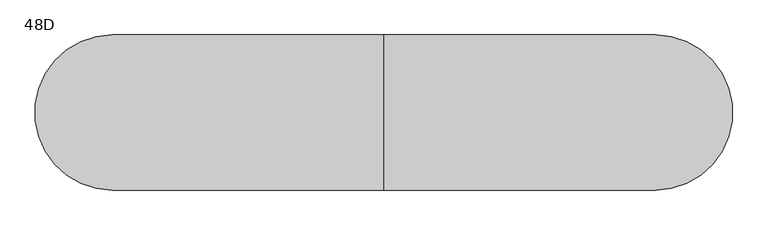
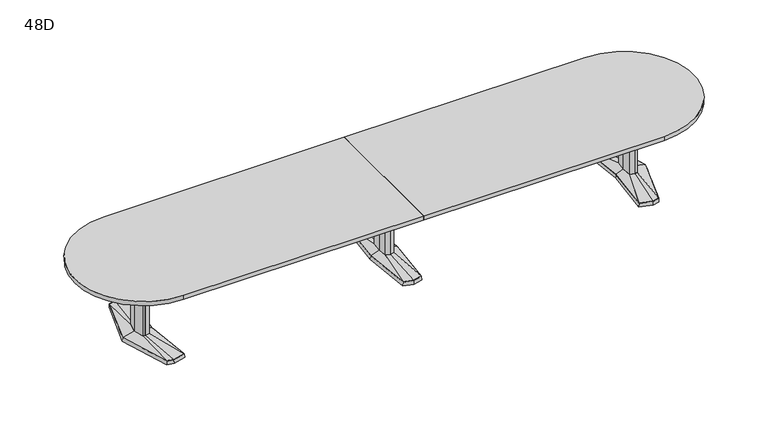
"""IFC4 building model written with IfcOpenShell, lengths in millimetres: furniture geometry, Coalesse_AM_Table_Conference_ETable2_Racetrack_18ft_AluminiumBase : 48D."""

from ifc_helpers import new_model, si_unit, point, frame, frame_2d, origin, place, context, project, spatial, polyline, circle_curve, trimmed, segment, composite_curve, outline, extrude, faceted_brep, source, transform, mapped, element, save
from ifc_brep_helpers import plane_surface, spline_surface, advanced_brep


def furniture_48d_277532bd(model_context):
    return source(origin(), model_context, "Body", "SolidModel", [
        faceted_brep([(-81.2333791, -433.8053819, 38.1), (0.0, -455.556576, 38.1), (81.2333791, -433.8053819, 38.1), (119.0564774, 0.0, 38.1), (81.2333791, 433.8053819, 38.1), (0.0, 455.556576, 38.1), (-81.2333791, 433.8053819, 38.1), (-119.0564774, 0.0, 38.1), (-82.7182795, -435.0512063, 3.175), (-120.65, 0.0, 3.175), (-82.7182795, 435.0512063, 3.175), (0.0, 457.2, 3.175), (82.7182795, 435.0512063, 3.175), (120.65, 0.0, 3.175), (82.7182795, -435.0512063, 3.175), (0.0, -457.2, 3.175), (0.0, 429.2617927, 3.175), (-77.9676806, 408.3850278, 3.175), (-74.7019821, 382.9646737, 3.175), (0.0, 402.9670094, 3.175), (74.7019821, 382.9646737, 3.175), (77.9676806, 408.3850278, 3.175), (0.0, -429.2617927, 3.175), (77.9676806, -408.3850278, 3.175), (74.7019821, -382.9646737, 3.175), (0.0, -402.9670094, 3.175), (-74.7019821, -382.9646737, 3.175), (-77.9676806, -408.3850278, 3.175), (-71.8574262, 114.6326257, 3.175), (-82.5426076, 0.0, 3.175), (-71.8574262, -114.6326257, 3.175), (0.0, -133.8761372, 3.175), (71.8574262, -114.6326257, 3.175), (82.5426076, 0.0, 3.175), (71.8574262, 114.6326257, 3.175), (0.0, 133.8761372, 3.175), (0.0, 429.2617927, 0.0), (77.9676806, 408.3850278, 0.0), (74.7019821, 382.9646737, 0.0), (0.0, 402.9670094, 0.0), (-74.7019821, 382.9646737, 0.0), (-77.9676806, 408.3850278, 0.0), (0.0, -429.2617927, 0.0), (-77.9676806, -408.3850278, 0.0), (-74.7019821, -382.9646737, 0.0), (0.0, -402.9670094, 0.0), (74.7019821, -382.9646737, 0.0), (77.9676806, -408.3850278, 0.0), (-71.8574262, 114.6326257, 0.0), (0.0, 133.8761372, 0.0), (71.8574262, 114.6326257, 0.0), (82.5426076, 0.0, 0.0), (71.8574262, -114.6326257, 0.0), (0.0, -133.8761372, 0.0), (-71.8574262, -114.6326257, 0.0), (-82.5426076, 0.0, 0.0)], [[[0, 1, 2, 3, 4, 5, 6, 7]], [[8, 9, 10, 11, 12, 13, 14, 15], [16, 17, 18, 19, 20, 21], [22, 23, 24, 25, 26, 27], [28, 29, 30, 31, 32, 33, 34, 35]], [[1, 0, 8, 15]], [[2, 1, 15, 14]], [[3, 2, 14, 13]], [[4, 3, 13, 12]], [[5, 4, 12, 11]], [[6, 5, 11, 10]], [[7, 6, 10, 9]], [[0, 7, 9, 8]], [[36, 37, 38, 39, 40, 41]], [[42, 43, 44, 45, 46, 47]], [[48, 49, 50, 51, 52, 53, 54, 55]], [[36, 41, 17, 16]], [[41, 40, 18, 17]], [[40, 39, 19, 18]], [[39, 38, 20, 19]], [[38, 37, 21, 20]], [[37, 36, 16, 21]], [[42, 47, 23, 22]], [[47, 46, 24, 23]], [[46, 45, 25, 24]], [[45, 44, 26, 25]], [[44, 43, 27, 26]], [[43, 42, 22, 27]], [[48, 55, 29, 28]], [[55, 54, 30, 29]], [[54, 53, 31, 30]], [[53, 52, 32, 31]], [[52, 51, 33, 32]], [[51, 50, 34, 33]], [[50, 49, 35, 34]], [[49, 48, 28, 35]]]),
        faceted_brep([(-36.3832834, 84.6900825, 698.5), (-44.2774487, 0.0, 698.5), (-36.3832834, -84.6900825, 698.5), (0.0, -94.4335728, 698.5), (36.3832834, -84.6900825, 698.5), (44.2774487, 0.0, 698.5), (36.3832834, 84.6900825, 698.5), (0.0, 94.4335728, 698.5), (-36.3832834, 84.6900825, 63.5), (0.0, 94.4335728, 63.5), (36.3832834, 84.6900825, 63.5), (44.2774487, 0.0, 63.5), (36.3832834, -84.6900825, 63.5), (0.0, -94.4335728, 63.5), (-36.3832834, -84.6900825, 63.5), (-44.2774487, 0.0, 63.5)], [[[0, 1, 2, 3, 4, 5, 6, 7]], [[8, 9, 10, 11, 12, 13, 14, 15]], [[1, 0, 8, 15]], [[2, 1, 15, 14]], [[3, 2, 14, 13]], [[4, 3, 13, 12]], [[5, 4, 12, 11]], [[6, 5, 11, 10]], [[7, 6, 10, 9]], [[0, 7, 9, 8]]]),
        advanced_brep(
        [(-36.3832834, 84.6900825, 63.5), (-44.2774487, 0.0, 63.5), (-36.3832834, -84.6900825, 63.5), (0.0, -94.4335728, 63.5), (36.3832834, -84.6900825, 63.5), (44.2774487, 0.0, 63.5), (36.3832834, 84.6900825, 63.5), (0.0, 94.4335728, 63.5), (-81.2333791, 433.8053819, 38.1), (0.0, 455.556576, 38.1), (81.2333791, 433.8053819, 38.1), (119.0564774, 0.0, 38.1), (81.2333791, -433.8053819, 38.1), (0.0, -455.556576, 38.1), (-81.2333791, -433.8053819, 38.1), (-119.0564774, 0.0, 38.1)],
        [
            (0, 1),
            (1, 2),
            (2, 3),
            (3, 4),
            (4, 5),
            (5, 6),
            (6, 7),
            (7, 0),
            (8, 9),
            (9, 10),
            (10, 11),
            (11, 12),
            (12, 13),
            (13, 14),
            (14, 15),
            (15, 8),
            (15, 1),
            (0, 8),
            (14, 2),
            (13, 3),
            (12, 4),
            (11, 5),
            (10, 6),
            (9, 7),
        ],
        [
            plane_surface(frame((0.0, 0.0, 63.5), z_axis=(0.0, 0.0, 1.0000000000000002), x_axis=(-0.9659615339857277, -0.25868574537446, 0.0))),
            plane_surface(frame((0.0, 0.0, 38.1), z_axis=(0.0, 0.0, -1.0000000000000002), x_axis=(-0.9659615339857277, -0.25868574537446, 0.0))),
            spline_surface(1, 1, [[(-81.2333791, 433.8053819, 38.1), (-36.3832834, 84.6900825, 63.5)], [(-119.0564774, 0.0, 38.1), (-44.2774487, 0.0, 63.5)]], [2, 2], [2, 2], [0.0, 1.0], [0.0, 1.0]),
            spline_surface(1, 1, [[(-119.0564774, 0.0, 38.1), (-44.2774487, 0.0, 63.5)], [(-81.2333791, -433.8053819, 38.1), (-36.3832834, -84.6900825, 63.5)]], [2, 2], [2, 2], [0.0, 1.0], [0.0, 1.0]),
            spline_surface(1, 1, [[(-81.2333791, -433.8053819, 38.1), (-36.3832834, -84.6900825, 63.5)], [(0.0, -455.556576, 38.1), (0.0, -94.4335728, 63.5)]], [2, 2], [2, 2], [0.0, 1.0], [0.0, 1.0]),
            spline_surface(1, 1, [[(0.0, -455.556576, 38.1), (0.0, -94.4335728, 63.5)], [(81.2333791, -433.8053819, 38.1), (36.3832834, -84.6900825, 63.5)]], [2, 2], [2, 2], [0.0, 1.0], [0.0, 1.0]),
            spline_surface(1, 1, [[(81.2333791, -433.8053819, 38.1), (36.3832834, -84.6900825, 63.5)], [(119.0564774, 0.0, 38.1), (44.2774487, 0.0, 63.5)]], [2, 2], [2, 2], [0.0, 1.0], [0.0, 1.0]),
            spline_surface(1, 1, [[(119.0564774, 0.0, 38.1), (44.2774487, 0.0, 63.5)], [(81.2333791, 433.8053819, 38.1), (36.3832834, 84.6900825, 63.5)]], [2, 2], [2, 2], [0.0, 1.0], [0.0, 1.0]),
            spline_surface(1, 1, [[(81.2333791, 433.8053819, 38.1), (36.3832834, 84.6900825, 63.5)], [(0.0, 455.556576, 38.1), (0.0, 94.4335728, 63.5)]], [2, 2], [2, 2], [0.0, 1.0], [0.0, 1.0]),
            spline_surface(1, 1, [[(0.0, 455.556576, 38.1), (0.0, 94.4335728, 63.5)], [(-81.2333791, 433.8053819, 38.1), (-36.3832834, 84.6900825, 63.5)]], [2, 2], [2, 2], [0.0, 1.0], [0.0, 1.0]),
        ],
        [
            (0, [[1, 2, 3, 4, 5, 6, 7, 8]]),
            (1, [[9, 10, 11, 12, 13, 14, 15, 16]]),
            (2, [[-16, 17, -1, 18]]),
            (3, [[-15, 19, -2, -17]]),
            (4, [[-14, 20, -3, -19]]),
            (5, [[-13, 21, -4, -20]]),
            (6, [[-12, 22, -5, -21]]),
            (7, [[-11, 23, -6, -22]]),
            (8, [[-10, 24, -7, -23]]),
            (9, [[-9, -18, -8, -24]]),
        ],
    ),
        faceted_brep([(2125.0306835, 455.5848221, 38.1), (2015.4531277, 426.2263816, 38.1), (2056.6163717, 0.0, 38.1), (2015.4531277, -426.2263816, 38.1), (2125.0306835, -455.5848221, 38.1), (2181.1570396, -440.5478297, 38.1), (2318.4684269, 0.0, 38.1), (2181.1570396, 440.5478297, 38.1), (2125.0306754, 457.2283104, 3.175), (2182.4124472, 441.8549756, 3.175), (2320.13125, 0.0, 3.175), (2182.4124472, -441.8549756, 3.175), (2125.0306754, -457.2283104, 3.175), (2013.74375, -427.4118891, 3.175), (2055.0214856, 0.0, 3.175), (2013.74375, 427.4118891, 3.175), (2128.620115, 428.3273875, 3.175), (2023.5718228, 402.1057253, 3.175), (2031.690518, 377.985069, 3.175), (2132.2095466, 401.0699529, 3.175), (2182.7691725, 387.524361, 3.175), (2181.9631061, 414.0360954, 3.175), (2128.620115, -428.3273875, 3.175), (2181.9631061, -414.0360954, 3.175), (2182.7691725, -387.524361, 3.175), (2132.2095466, -401.0699529, 3.175), (2031.690518, -377.985069, 3.175), (2023.5718228, -402.1057253, 3.175), (2255.2153621, 0.0, 3.175), (2222.9459611, 120.4193755, 3.175), (2174.2987222, 133.471665, 3.175), (2094.4180526, 119.4176561, 3.175), (2083.2868466, 0.0, 3.175), (2094.4180526, -119.4176561, 3.175), (2174.2987222, -133.471665, 3.175), (2222.9459611, -120.4193755, 3.175), (2128.620115, 428.3273875, 0.0), (2181.9631061, 414.0360954, 0.0), (2182.7691725, 387.524361, 0.0), (2132.2095466, 401.0699529, 0.0), (2031.690518, 377.985069, 0.0), (2023.5718228, 402.1057253, 0.0), (2128.620115, -428.3273875, 0.0), (2023.5718228, -402.1057253, 0.0), (2031.690518, -377.985069, 0.0), (2132.2095466, -401.0699529, 0.0), (2182.7691725, -387.524361, 0.0), (2181.9631061, -414.0360954, 0.0), (2255.2153621, 0.0, 0.0), (2222.9459611, -120.4193755, 0.0), (2174.2987222, -133.471665, 0.0), (2094.4180526, -119.4176561, 0.0), (2083.2868466, 0.0, 0.0), (2094.4180526, 119.4176561, 0.0), (2174.2987222, 133.471665, 0.0), (2222.9459611, 120.4193755, 0.0)], [[[0, 1, 2, 3, 4, 5, 6, 7]], [[8, 9, 10, 11, 12, 13, 14, 15], [16, 17, 18, 19, 20, 21], [22, 23, 24, 25, 26, 27], [28, 29, 30, 31, 32, 33, 34, 35]], [[7, 9, 8, 0]], [[6, 10, 9, 7]], [[5, 11, 10, 6]], [[4, 12, 11, 5]], [[3, 13, 12, 4]], [[2, 14, 13, 3]], [[1, 15, 14, 2]], [[0, 8, 15, 1]], [[36, 37, 38, 39, 40, 41]], [[42, 43, 44, 45, 46, 47]], [[48, 49, 50, 51, 52, 53, 54, 55]], [[36, 16, 21, 37]], [[37, 21, 20, 38]], [[38, 20, 19, 39]], [[39, 19, 18, 40]], [[40, 18, 17, 41]], [[41, 17, 16, 36]], [[42, 22, 27, 43]], [[43, 27, 26, 44]], [[44, 26, 25, 45]], [[45, 25, 24, 46]], [[46, 24, 23, 47]], [[47, 23, 22, 42]], [[48, 28, 35, 49]], [[49, 35, 34, 50]], [[50, 34, 33, 51]], [[51, 33, 32, 52]], [[52, 32, 31, 53]], [[53, 31, 30, 54]], [[54, 30, 29, 55]], [[55, 29, 28, 48]]]),
        faceted_brep([(2215.7710836, 0.0, 698.5), (2191.8358546, 89.3188359, 698.5), (2174.9824984, 93.8406728, 698.5), (2172.5826511, 94.4845635, 698.5), (2129.655146, 86.9320037, 698.5), (2121.5520056, 0.0, 698.5), (2129.655146, -86.9320037, 698.5), (2172.5826511, -94.4845635, 698.5), (2174.9824984, -93.8406728, 698.5), (2191.8358546, -89.3188359, 698.5), (2215.7710836, 0.0, 63.5), (2191.8358546, -89.3188359, 63.5), (2174.9824984, -93.8406728, 63.5), (2172.5826511, -94.4845635, 63.5), (2129.655146, -86.9320037, 63.5), (2121.5520056, 0.0, 63.5), (2129.655146, 86.9320037, 63.5), (2172.5826511, 94.4845635, 63.5), (2174.9824984, 93.8406728, 63.5), (2191.8358546, 89.3188359, 63.5)], [[[0, 1, 2, 3, 4, 5, 6, 7, 8, 9]], [[10, 11, 12, 13, 14, 15, 16, 17, 18, 19]], [[9, 11, 10, 0]], [[8, 12, 11, 9]], [[7, 13, 12, 8]], [[6, 14, 13, 7]], [[5, 15, 14, 6]], [[4, 16, 15, 5]], [[3, 17, 16, 4]], [[2, 18, 17, 3]], [[1, 19, 18, 2]], [[0, 10, 19, 1]]]),
        advanced_brep(
        [(2172.5826511, 94.4845635, 63.5), (2129.655146, 86.9320037, 63.5), (2121.5520056, 0.0, 63.5), (2129.655146, -86.9320037, 63.5), (2172.5826511, -94.4845635, 63.5), (2191.8358546, -89.3188359, 63.5), (2215.7710836, 0.0, 63.5), (2191.8358546, 89.3188359, 63.5), (2125.0306835, 455.5848221, 38.1), (2181.1570396, 440.5478297, 38.1), (2318.4684269, 0.0, 38.1), (2181.1570396, -440.5478297, 38.1), (2125.0306835, -455.5848221, 38.1), (2015.4531277, -426.2263816, 38.1), (2056.6163717, 0.0, 38.1), (2015.4531277, 426.2263816, 38.1)],
        [
            (0, 1),
            (1, 2),
            (2, 3),
            (3, 4),
            (4, 5),
            (5, 6),
            (6, 7),
            (7, 0),
            (8, 9),
            (9, 10),
            (10, 11),
            (11, 12),
            (12, 13),
            (13, 14),
            (14, 15),
            (15, 8),
            (8, 0),
            (7, 9),
            (6, 10),
            (5, 11),
            (4, 12),
            (3, 13),
            (2, 14),
            (1, 15),
        ],
        [
            plane_surface(frame((2165.6837991, 0.0, 63.5), z_axis=(0.0, 0.0, 1.0), x_axis=(-0.25884244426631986, -0.9659195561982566, 0.0))),
            plane_surface(frame((2127.2958125, 0.0, 38.1), z_axis=(0.0, 0.0, -1.0), x_axis=(-0.25884244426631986, -0.9659195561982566, 0.0))),
            spline_surface(1, 1, [[(2125.0306835, 455.5848221, 38.1), (2181.1570396, 440.5478297, 38.1)], [(2172.5826511, 94.4845635, 63.5), (2191.8358546, 89.3188359, 63.5)]], [2, 2], [2, 2], [0.0, 1.0], [0.0, 1.0]),
            spline_surface(1, 1, [[(2181.1570396, 440.5478297, 38.1), (2318.4684269, 0.0, 38.1)], [(2191.8358546, 89.3188359, 63.5), (2215.7710836, 0.0, 63.5)]], [2, 2], [2, 2], [0.0, 1.0], [0.0, 1.0]),
            spline_surface(1, 1, [[(2318.4684269, 0.0, 38.1), (2181.1570396, -440.5478297, 38.1)], [(2215.7710836, 0.0, 63.5), (2191.8358546, -89.3188359, 63.5)]], [2, 2], [2, 2], [0.0, 1.0], [0.0, 1.0]),
            spline_surface(1, 1, [[(2181.1570396, -440.5478297, 38.1), (2125.0306835, -455.5848221, 38.1)], [(2191.8358546, -89.3188359, 63.5), (2172.5826511, -94.4845635, 63.5)]], [2, 2], [2, 2], [0.0, 1.0], [0.0, 1.0]),
            spline_surface(1, 1, [[(2125.0306835, -455.5848221, 38.1), (2015.4531277, -426.2263816, 38.1)], [(2172.5826511, -94.4845635, 63.5), (2129.655146, -86.9320037, 63.5)]], [2, 2], [2, 2], [0.0, 1.0], [0.0, 1.0]),
            spline_surface(1, 1, [[(2015.4531277, -426.2263816, 38.1), (2056.6163717, 0.0, 38.1)], [(2129.655146, -86.9320037, 63.5), (2121.5520056, 0.0, 63.5)]], [2, 2], [2, 2], [0.0, 1.0], [0.0, 1.0]),
            spline_surface(1, 1, [[(2056.6163717, 0.0, 38.1), (2015.4531277, 426.2263816, 38.1)], [(2121.5520056, 0.0, 63.5), (2129.655146, 86.9320037, 63.5)]], [2, 2], [2, 2], [0.0, 1.0], [0.0, 1.0]),
            spline_surface(1, 1, [[(2015.4531277, 426.2263816, 38.1), (2125.0306835, 455.5848221, 38.1)], [(2129.655146, 86.9320037, 63.5), (2172.5826511, 94.4845635, 63.5)]], [2, 2], [2, 2], [0.0, 1.0], [0.0, 1.0]),
        ],
        [
            (0, [[1, 2, 3, 4, 5, 6, 7, 8]]),
            (1, [[9, 10, 11, 12, 13, 14, 15, 16]]),
            (2, [[17, -8, 18, -9]]),
            (3, [[-18, -7, 19, -10]]),
            (4, [[-19, -6, 20, -11]]),
            (5, [[-20, -5, 21, -12]]),
            (6, [[-21, -4, 22, -13]]),
            (7, [[-22, -3, 23, -14]]),
            (8, [[-23, -2, 24, -15]]),
            (9, [[-24, -1, -17, -16]]),
        ],
    ),
        faceted_brep([(-2125.0306835, 455.5848221, 38.1), (-2181.1570396, 440.5478297, 38.1), (-2318.4684269, 0.0, 38.1), (-2181.1570396, -440.5478297, 38.1), (-2125.0306835, -455.5848221, 38.1), (-2015.4531277, -426.2263816, 38.1), (-2056.6163717, 0.0, 38.1), (-2015.4531277, 426.2263816, 38.1), (-2125.0306754, 457.2283104, 3.175), (-2013.74375, 427.4118891, 3.175), (-2055.0214856, 0.0, 3.175), (-2013.74375, -427.4118891, 3.175), (-2125.0306754, -457.2283104, 3.175), (-2182.4124472, -441.8549756, 3.175), (-2320.13125, 0.0, 3.175), (-2182.4124472, 441.8549756, 3.175), (-2128.620115, 428.3273875, 3.175), (-2181.9631061, 414.0360954, 3.175), (-2182.7691725, 387.524361, 3.175), (-2132.2095466, 401.0699529, 3.175), (-2031.690518, 377.985069, 3.175), (-2023.5718228, 402.1057253, 3.175), (-2128.620115, -428.3273875, 3.175), (-2023.5718228, -402.1057253, 3.175), (-2031.690518, -377.985069, 3.175), (-2132.2095466, -401.0699529, 3.175), (-2182.7691725, -387.524361, 3.175), (-2181.9631061, -414.0360954, 3.175), (-2255.2153621, 0.0, 3.175), (-2222.9459611, -120.4193755, 3.175), (-2174.2987222, -133.471665, 3.175), (-2094.4180526, -119.4176561, 3.175), (-2083.2868466, 0.0, 3.175), (-2094.4180526, 119.4176561, 3.175), (-2174.2987222, 133.471665, 3.175), (-2222.9459611, 120.4193755, 3.175), (-2128.620115, 428.3273875, 0.0), (-2023.5718228, 402.1057253, 0.0), (-2031.690518, 377.985069, 0.0), (-2132.2095466, 401.0699529, 0.0), (-2182.7691725, 387.524361, 0.0), (-2181.9631061, 414.0360954, 0.0), (-2128.620115, -428.3273875, 0.0), (-2181.9631061, -414.0360954, 0.0), (-2182.7691725, -387.524361, 0.0), (-2132.2095466, -401.0699529, 0.0), (-2031.690518, -377.985069, 0.0), (-2023.5718228, -402.1057253, 0.0), (-2255.2153621, 0.0, 0.0), (-2222.9459611, 120.4193755, 0.0), (-2174.2987222, 133.471665, 0.0), (-2094.4180526, 119.4176561, 0.0), (-2083.2868466, 0.0, 0.0), (-2094.4180526, -119.4176561, 0.0), (-2174.2987222, -133.471665, 0.0), (-2222.9459611, -120.4193755, 0.0)], [[[0, 1, 2, 3, 4, 5, 6, 7]], [[8, 9, 10, 11, 12, 13, 14, 15], [16, 17, 18, 19, 20, 21], [22, 23, 24, 25, 26, 27], [28, 29, 30, 31, 32, 33, 34, 35]], [[1, 0, 8, 15]], [[2, 1, 15, 14]], [[3, 2, 14, 13]], [[4, 3, 13, 12]], [[5, 4, 12, 11]], [[6, 5, 11, 10]], [[7, 6, 10, 9]], [[0, 7, 9, 8]], [[36, 37, 38, 39, 40, 41]], [[42, 43, 44, 45, 46, 47]], [[48, 49, 50, 51, 52, 53, 54, 55]], [[36, 41, 17, 16]], [[41, 40, 18, 17]], [[40, 39, 19, 18]], [[39, 38, 20, 19]], [[38, 37, 21, 20]], [[37, 36, 16, 21]], [[42, 47, 23, 22]], [[47, 46, 24, 23]], [[46, 45, 25, 24]], [[45, 44, 26, 25]], [[44, 43, 27, 26]], [[43, 42, 22, 27]], [[48, 55, 29, 28]], [[55, 54, 30, 29]], [[54, 53, 31, 30]], [[53, 52, 32, 31]], [[52, 51, 33, 32]], [[51, 50, 34, 33]], [[50, 49, 35, 34]], [[49, 48, 28, 35]]]),
        faceted_brep([(-2215.7710836, 0.0, 698.5), (-2191.8358546, -89.3188359, 698.5), (-2174.9824984, -93.8406728, 698.5), (-2172.5826511, -94.4845635, 698.5), (-2129.655146, -86.9320037, 698.5), (-2121.5520056, 0.0, 698.5), (-2129.655146, 86.9320037, 698.5), (-2172.5826511, 94.4845635, 698.5), (-2174.9824984, 93.8406728, 698.5), (-2191.8358546, 89.3188359, 698.5), (-2215.7710836, 0.0, 63.5), (-2191.8358546, 89.3188359, 63.5), (-2174.9824984, 93.8406728, 63.5), (-2172.5826511, 94.4845635, 63.5), (-2129.655146, 86.9320037, 63.5), (-2121.5520056, 0.0, 63.5), (-2129.655146, -86.9320037, 63.5), (-2172.5826511, -94.4845635, 63.5), (-2174.9824984, -93.8406728, 63.5), (-2191.8358546, -89.3188359, 63.5)], [[[0, 1, 2, 3, 4, 5, 6, 7, 8, 9]], [[10, 11, 12, 13, 14, 15, 16, 17, 18, 19]], [[1, 0, 10, 19]], [[2, 1, 19, 18]], [[3, 2, 18, 17]], [[4, 3, 17, 16]], [[5, 4, 16, 15]], [[6, 5, 15, 14]], [[7, 6, 14, 13]], [[8, 7, 13, 12]], [[9, 8, 12, 11]], [[0, 9, 11, 10]]]),
        advanced_brep(
        [(-2172.5826511, 94.4845635, 63.5), (-2191.8358546, 89.3188359, 63.5), (-2215.7710836, 0.0, 63.5), (-2191.8358546, -89.3188359, 63.5), (-2172.5826511, -94.4845635, 63.5), (-2129.655146, -86.9320037, 63.5), (-2121.5520056, 0.0, 63.5), (-2129.655146, 86.9320037, 63.5), (-2125.0306835, 455.5848221, 38.1), (-2015.4531277, 426.2263816, 38.1), (-2056.6163717, 0.0, 38.1), (-2015.4531277, -426.2263816, 38.1), (-2125.0306835, -455.5848221, 38.1), (-2181.1570396, -440.5478297, 38.1), (-2318.4684269, 0.0, 38.1), (-2181.1570396, 440.5478297, 38.1)],
        [
            (0, 1),
            (1, 2),
            (2, 3),
            (3, 4),
            (4, 5),
            (5, 6),
            (6, 7),
            (7, 0),
            (8, 9),
            (9, 10),
            (10, 11),
            (11, 12),
            (12, 13),
            (13, 14),
            (14, 15),
            (15, 8),
            (15, 1),
            (0, 8),
            (14, 2),
            (13, 3),
            (12, 4),
            (11, 5),
            (10, 6),
            (9, 7),
        ],
        [
            plane_surface(frame((-2165.6837991, 0.0, 63.5), z_axis=(0.0, 0.0, 1.0), x_axis=(0.25884244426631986, -0.9659195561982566, 0.0))),
            plane_surface(frame((-2127.2958125, 0.0, 38.1), z_axis=(0.0, 0.0, -1.0), x_axis=(0.25884244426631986, -0.9659195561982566, 0.0))),
            spline_surface(1, 1, [[(-2125.0306835, 455.5848221, 38.1), (-2172.5826511, 94.4845635, 63.5)], [(-2181.1570396, 440.5478297, 38.1), (-2191.8358546, 89.3188359, 63.5)]], [2, 2], [2, 2], [0.0, 1.0], [0.0, 1.0]),
            spline_surface(1, 1, [[(-2181.1570396, 440.5478297, 38.1), (-2191.8358546, 89.3188359, 63.5)], [(-2318.4684269, 0.0, 38.1), (-2215.7710836, 0.0, 63.5)]], [2, 2], [2, 2], [0.0, 1.0], [0.0, 1.0]),
            spline_surface(1, 1, [[(-2318.4684269, 0.0, 38.1), (-2215.7710836, 0.0, 63.5)], [(-2181.1570396, -440.5478297, 38.1), (-2191.8358546, -89.3188359, 63.5)]], [2, 2], [2, 2], [0.0, 1.0], [0.0, 1.0]),
            spline_surface(1, 1, [[(-2181.1570396, -440.5478297, 38.1), (-2191.8358546, -89.3188359, 63.5)], [(-2125.0306835, -455.5848221, 38.1), (-2172.5826511, -94.4845635, 63.5)]], [2, 2], [2, 2], [0.0, 1.0], [0.0, 1.0]),
            spline_surface(1, 1, [[(-2125.0306835, -455.5848221, 38.1), (-2172.5826511, -94.4845635, 63.5)], [(-2015.4531277, -426.2263816, 38.1), (-2129.655146, -86.9320037, 63.5)]], [2, 2], [2, 2], [0.0, 1.0], [0.0, 1.0]),
            spline_surface(1, 1, [[(-2015.4531277, -426.2263816, 38.1), (-2129.655146, -86.9320037, 63.5)], [(-2056.6163717, 0.0, 38.1), (-2121.5520056, 0.0, 63.5)]], [2, 2], [2, 2], [0.0, 1.0], [0.0, 1.0]),
            spline_surface(1, 1, [[(-2056.6163717, 0.0, 38.1), (-2121.5520056, 0.0, 63.5)], [(-2015.4531277, 426.2263816, 38.1), (-2129.655146, 86.9320037, 63.5)]], [2, 2], [2, 2], [0.0, 1.0], [0.0, 1.0]),
            spline_surface(1, 1, [[(-2015.4531277, 426.2263816, 38.1), (-2129.655146, 86.9320037, 63.5)], [(-2125.0306835, 455.5848221, 38.1), (-2172.5826511, 94.4845635, 63.5)]], [2, 2], [2, 2], [0.0, 1.0], [0.0, 1.0]),
        ],
        [
            (0, [[1, 2, 3, 4, 5, 6, 7, 8]]),
            (1, [[9, 10, 11, 12, 13, 14, 15, 16]]),
            (2, [[-16, 17, -1, 18]]),
            (3, [[-15, 19, -2, -17]]),
            (4, [[-14, 20, -3, -19]]),
            (5, [[-13, 21, -4, -20]]),
            (6, [[-12, 22, -5, -21]]),
            (7, [[-11, 23, -6, -22]]),
            (8, [[-10, 24, -7, -23]]),
            (9, [[-9, -18, -8, -24]]),
        ],
    ),
        extrude(outline(polyline([(96.8375, 698.5), (103.1875, 698.5), (103.1875, 476.25), (-103.1875, 476.25), (-103.1875, 698.5), (-96.8375, 698.5), (-96.8375, 482.6), (96.8375, 482.6), (96.8375, 698.5)])), frame((44.2774487, 0.0, 0.0), z_axis=(1.0, 0.0, 0.0), x_axis=(0.0, 1.0, 0.0)), (0.0, 0.0, 1.0), 2077.4163013),
        extrude(outline(composite_curve([segment(trimmed(circle_curve(frame_2d((2133.6, 0.0)), 609.6), [point((2133.6, 609.6))], [point((2133.6, -609.6))], False, "CARTESIAN"), True, "CONTINUOUS"), segment(polyline([(2133.6, -609.6), (0.0, -609.6), (0.0, 609.6), (2133.6, 609.6)]), True, "CONTINUOUS")], self_intersect=False)), frame((0.0, 0.0, 698.5), z_axis=(0.0, 0.0, 1.0), x_axis=(1.0, 0.0, 0.0)), (0.0, 0.0, 1.0), 38.1),
        extrude(outline(composite_curve([segment(polyline([(0.0, 609.6), (0.0, -609.6), (-2133.6, -609.6)]), True, "CONTINUOUS"), segment(trimmed(circle_curve(frame_2d((-2133.6, 0.0)), 609.6), [point((-2133.6, -609.6))], [point((-2133.6, 609.6))], False, "CARTESIAN"), True, "CONTINUOUS"), segment(polyline([(-2133.6, 609.6), (0.0, 609.6)]), True, "CONTINUOUS")], self_intersect=False)), frame((0.0, 0.0, 698.5), z_axis=(0.0, 0.0, 1.0), x_axis=(1.0, 0.0, 0.0)), (0.0, 0.0, 1.0), 38.1),
        extrude(outline(polyline([(96.8375, 698.5), (103.1875, 698.5), (103.1875, 476.25), (-103.1875, 476.25), (-103.1875, 698.5), (-96.8375, 698.5), (-96.8375, 482.6), (96.8375, 482.6), (96.8375, 698.5)])), frame((-2121.69375, 0.0, 0.0), z_axis=(1.0, 0.0, 0.0), x_axis=(0.0, 1.0, 0.0)), (0.0, 0.0, 1.0), 2077.4163013),
    ])


if __name__ == "__main__":
    model = new_model("IFC4")
    model_context = context("Model", 3, world=origin())
    ifc_project = project(units=[si_unit("LENGTHUNIT", "METRE", prefix="MILLI")], contexts=[model_context])
    site = spatial("IfcSite", under=ifc_project)
    building = spatial("IfcBuilding", under=site)
    placement = place(None, origin())
    furniture_48d_shape = furniture_48d_277532bd(model_context)
    element("IfcFurniture", 1, ObjectType="Coalesse_AM_Table_Conference_ETable2_Racetrack_18ft_AluminiumBase : 48D", at=placement, inside=building, context=model_context, shape_type="MappedRepresentation", body=[
        mapped(furniture_48d_shape, transform((0.0, 0.0, 0.0), x_axis=(1.0, 0.0, 0.0), y_axis=(0.0, 1.0, 0.0), z_axis=(0.0, 0.0, 1.0))),
    ])
    save(model, "model.ifc")
